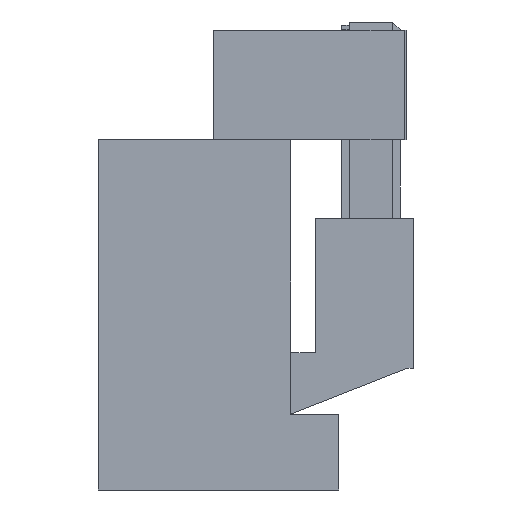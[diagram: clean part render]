
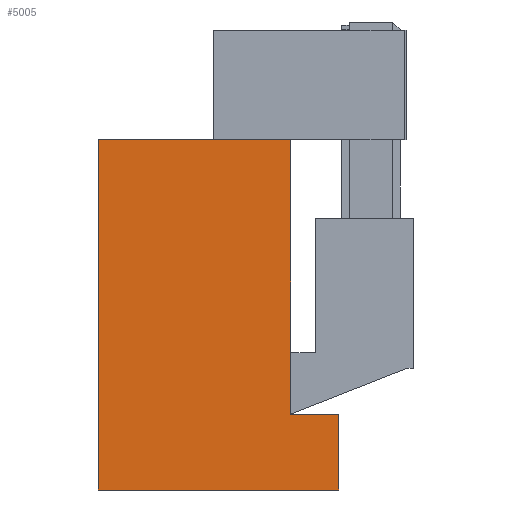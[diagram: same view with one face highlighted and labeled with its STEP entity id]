
A CAD part, left-side view. The second image highlights one B-rep face of the part: STEP entity #5005.
In plain terms, the highlighted planar face has unit normal (-1, 0, 0) as drawn and (0, 0, 1) by its records, which use the part's own axes.
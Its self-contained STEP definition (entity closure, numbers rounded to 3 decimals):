
#4097=CARTESIAN_POINT('Vertex',(1250.,-113.771,1438.)) ;
#4101=CARTESIAN_POINT('Control Point',(0.,-113.771,1438.)) ;
#4102=CARTESIAN_POINT('Control Point',(1250.,-113.771,1438.)) ;
#4103=CARTESIAN_POINT('Vertex',(0.,-113.771,1438.)) ;
#4199=CARTESIAN_POINT('Vertex',(1000.,280.,1438.)) ;
#4213=CARTESIAN_POINT('Vertex',(1000.,1707.,1438.)) ;
#4216=CARTESIAN_POINT('Line Origine',(1000.,993.5,1438.)) ;
#4349=CARTESIAN_POINT('Vertex',(0.,1707.,1438.)) ;
#4352=CARTESIAN_POINT('Line Origine',(500.,1707.,1438.)) ;
#4473=CARTESIAN_POINT('Vertex',(1250.,280.,1438.)) ;
#4481=CARTESIAN_POINT('Line Origine',(1125.,280.,1438.)) ;
#4970=CARTESIAN_POINT('Line Origine',(0.,796.615,1438.)) ;
#4987=CARTESIAN_POINT('Axis2P3D Location',(0.,0.,1438.)) ;
#4992=CARTESIAN_POINT('Line Origine',(1250.,83.115,1438.)) ;
#4217=DIRECTION('Vector Direction',(0.,-1.,0.)) ;
#4353=DIRECTION('Vector Direction',(1.,0.,0.)) ;
#4482=DIRECTION('Vector Direction',(1.,0.,0.)) ;
#4971=DIRECTION('Vector Direction',(0.,1.,0.)) ;
#4988=DIRECTION('Axis2P3D Direction',(0.,0.,1.)) ;
#4989=DIRECTION('Axis2P3D XDirection',(1.,0.,0.)) ;
#4993=DIRECTION('Vector Direction',(0.,-1.,0.)) ;
#4990=AXIS2_PLACEMENT_3D('Plane Axis2P3D',#4987,#4988,#4989) ;
#4998=ORIENTED_EDGE('',*,*,#4996,.T.) ;
#4999=ORIENTED_EDGE('',*,*,#4485,.T.) ;
#5000=ORIENTED_EDGE('',*,*,#4220,.T.) ;
#5001=ORIENTED_EDGE('',*,*,#4356,.T.) ;
#5002=ORIENTED_EDGE('',*,*,#4974,.F.) ;
#5003=ORIENTED_EDGE('',*,*,#4105,.F.) ;
#4218=VECTOR('Line Direction',#4217,1.) ;
#4354=VECTOR('Line Direction',#4353,1.) ;
#4483=VECTOR('Line Direction',#4482,1.) ;
#4972=VECTOR('Line Direction',#4971,1.) ;
#4994=VECTOR('Line Direction',#4993,1.) ;
#5005=ADVANCED_FACE('Corps principal',(#5004),#4991,.T.) ;
#4100=B_SPLINE_CURVE_WITH_KNOTS('',1,(#4101,#4102),.UNSPECIFIED.,.F.,.U.,(2,2),(0.,1250.),.UNSPECIFIED.) ;
#4105=EDGE_CURVE('',#4098,#4104,#4100,.F.) ;
#4220=EDGE_CURVE('',#4200,#4214,#4219,.F.) ;
#4356=EDGE_CURVE('',#4214,#4350,#4355,.F.) ;
#4485=EDGE_CURVE('',#4474,#4200,#4484,.F.) ;
#4974=EDGE_CURVE('',#4104,#4350,#4973,.T.) ;
#4996=EDGE_CURVE('',#4098,#4474,#4995,.F.) ;
#4997=EDGE_LOOP('',(#4998,#4999,#5000,#5001,#5002,#5003)) ;
#5004=FACE_OUTER_BOUND('',#4997,.T.) ;
#4219=LINE('Line',#4216,#4218) ;
#4355=LINE('Line',#4352,#4354) ;
#4484=LINE('Line',#4481,#4483) ;
#4973=LINE('Line',#4970,#4972) ;
#4995=LINE('Line',#4992,#4994) ;
#4991=PLANE('',#4990) ;
#4098=VERTEX_POINT('',#4097) ;
#4104=VERTEX_POINT('',#4103) ;
#4200=VERTEX_POINT('',#4199) ;
#4214=VERTEX_POINT('',#4213) ;
#4350=VERTEX_POINT('',#4349) ;
#4474=VERTEX_POINT('',#4473) ;
